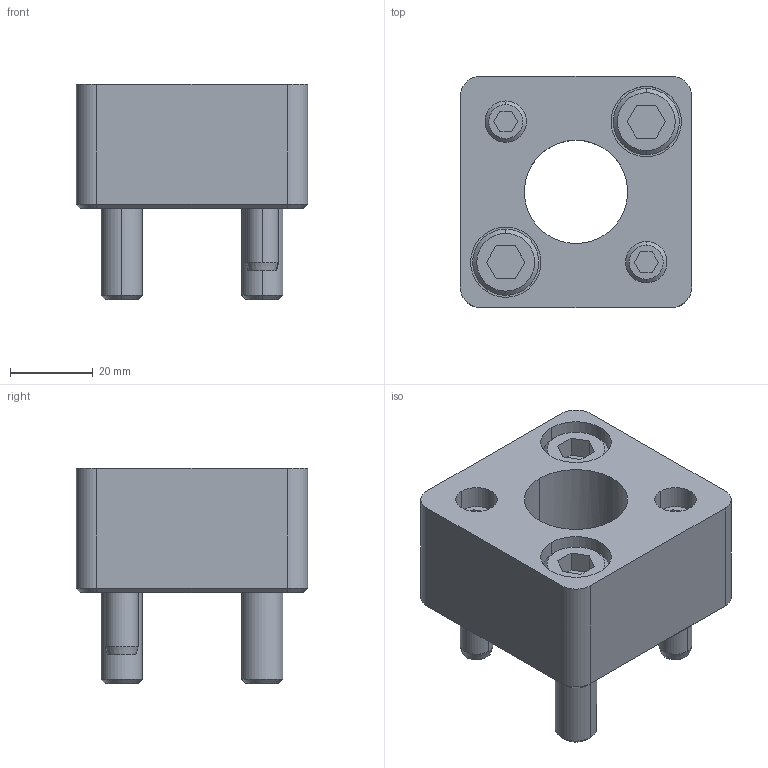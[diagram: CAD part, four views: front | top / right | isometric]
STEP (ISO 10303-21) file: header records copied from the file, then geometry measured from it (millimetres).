
FILE_DESCRIPTION(/* description */ (''),/* implementation_level */ '2;1');
FILE_NAME(/* name */ '3d_hmpdr25_04133_r00.stp',/* time_stamp */ '2011-01-10T14:14:42+09:00',/* author */ ('MISUMI'),/* organization */ (''),/* preprocessor_version */ 'ST-DEVELOPER v11',/* originating_system */ 'UGS - NX 5.0',/* authorisation */ '');
FILE_SCHEMA (('CONFIG_CONTROL_DESIGN'));
Length unit declared in the file: millimetre
Products named in the file (1): 3d_hmpdr25_04133_r00
Bounding box: 56 x 56 x 52 mm (x, y, z)
Volume: 78489.3 mm3; surface area: 25156.7 mm2
Topology: 7 solids, 7 shells, 147 faces, 327 edges, 208 vertices
Faces by surface type: plane 66, cylinder 51, cone 30
Entity records: 4203 total; most frequent: DIRECTION 745, CARTESIAN_POINT 740, ORIENTED_EDGE 654, EDGE_CURVE 327, AXIS2_PLACEMENT_3D 281, VERTEX_POINT 208, LINE 183, VECTOR 183
